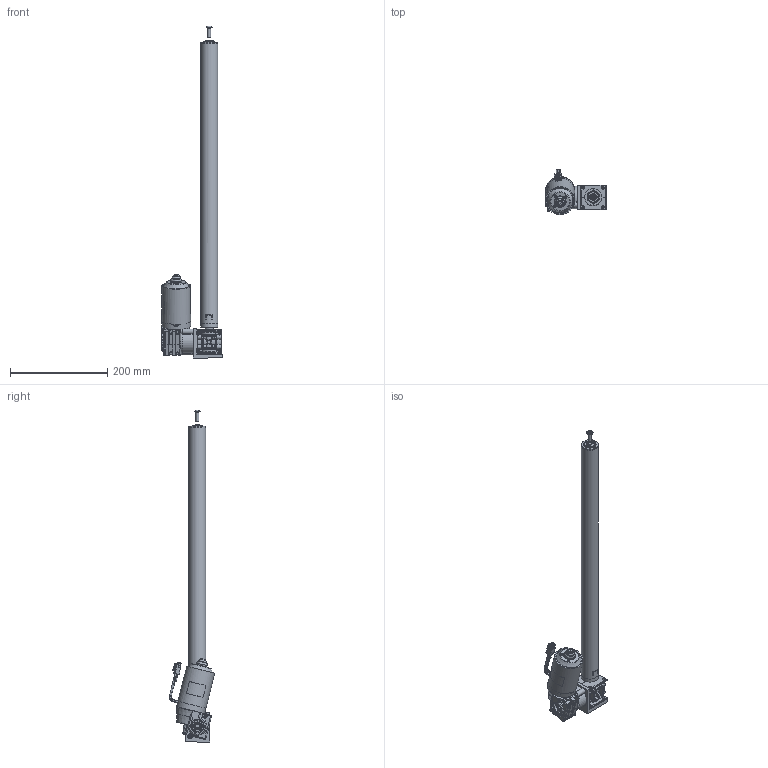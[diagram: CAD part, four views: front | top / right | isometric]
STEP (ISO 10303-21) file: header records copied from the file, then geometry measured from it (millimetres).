
FILE_DESCRIPTION(/* description */ (''),/* implementation_level */ '2;1');
FILE_NAME(/* name */ '4645_00-0010.stp',/* time_stamp */ '2025-07-14T10:58:55+02:00',/* author */ ('Weber_H'),/* organization */ (''),/* preprocessor_version */ 'ST-DEVELOPER v19.2',/* originating_system */ 'Autodesk Inventor 2023',/* authorisation */ '');
FILE_SCHEMA (('CONFIG_CONTROL_DESIGN'));
Length unit declared in the file: millimetre
Products named in the file (1): Bauteil4
Bounding box: 125 x 92.73 x 681.5 mm (x, y, z)
Volume: 1053459.9 mm3; surface area: 200470.4 mm2
Topology: 3 solids, 64 shells, 2994 faces, 7710 edges, 4785 vertices
Faces by surface type: plane 1315, cylinder 1022, torus 315, cone 181, bspline 98, sphere 63
Full cylindrical faces by diameter (mm): 1.5 x21, 2 x9, 2.6 x6, 2.7 x1, 2.764 x4, 2.8 x2, 3.5 x4, 3.82 x1, 4 x8, 4.134 x7, 4.2 x5, 4.25 x2, 4.75 x8, 5 x15, 5.1 x4, 5.3 x2, 5.5 x8, 6 x3, 6.08 x1, 6.2 x1, 7 x1, 7.5 x3, 8 x4, 8.5 x7, 9.5 x1, 10 x4, 10.1 x1, 10.6 x1, 10.9 x3, 12 x1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
Entity records: 112241 total; most frequent: CARTESIAN_POINT 37211, DIRECTION 15425, ORIENTED_EDGE 15270, EDGE_CURVE 7635, AXIS2_PLACEMENT_3D 5876, VERTEX_POINT 4785, LINE 3673, VECTOR 3673
